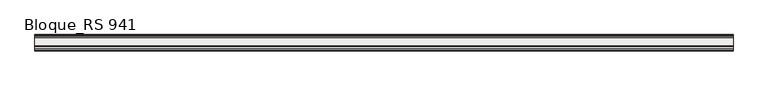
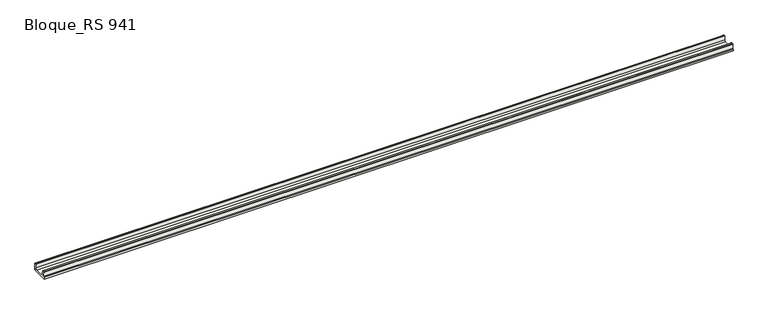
"""IFC4 building model written with IfcOpenShell, lengths in millimetres: slab geometry, ROSA GRES_RS 941 : Bloque_RS 941."""

from ifc_helpers import new_model, si_unit, point, frame, frame_2d, origin, place, context, project, spatial, polyline, circle_curve, trimmed, segment, composite_curve, outline, extrude, source, transform, mapped, element, save


def bloque_rs_941_059d9b8e(model_context):
    return source(origin(), model_context, "Body", "SweptSolid", [
        extrude(outline(composite_curve([segment(trimmed(circle_curve(frame_2d((290.8048832, 121.0098178)), 4.9901918), [point((290.7950654, 126.0))], [point((295.7950654, 121.0))], False, "CARTESIAN"), True, "CONTINUOUS"), segment(polyline([(295.7950654, 121.0), (295.7950654, 0.0), (15.7946269, 0.0), (15.7946269, 32.0012714), (22.7946272, 44.0), (22.7946272, 121.0)]), True, "CONTINUOUS"), segment(trimmed(circle_curve(frame_2d((27.7946272, 121.0)), 5.0), [point((22.7946272, 121.0))], [point((27.7946272, 126.0))], False, "CARTESIAN"), True, "CONTINUOUS"), segment(polyline([(27.7946272, 126.0), (54.1223252, 126.0)]), True, "CONTINUOUS"), segment(trimmed(circle_curve(frame_2d((54.1351224, 121.0174239)), 4.9825925), [point((54.1223252, 126.0))], [point((58.8933079, 122.4959025))], False, "CARTESIAN"), True, "CONTINUOUS"), segment(polyline([(58.8933079, 122.4959025), (83.9689438, 42.5204875)]), True, "CONTINUOUS"), segment(trimmed(circle_curve(frame_2d((107.6378199, 49.7467022)), 24.7474015), [point((83.9689438, 42.5204875))], [point((107.8238571, 25.0))], True, "CARTESIAN"), True, "CONTINUOUS"), segment(polyline([(107.8238571, 25.0), (246.7450654, 25.0)]), True, "CONTINUOUS"), segment(trimmed(circle_curve(frame_2d((246.8549987, 49.9398968)), 24.9401391), [point((246.7450654, 25.0))], [point((271.7950654, 50.0))], True, "CARTESIAN"), True, "CONTINUOUS"), segment(polyline([(271.7950654, 50.0), (271.7950654, 121.221769)]), True, "CONTINUOUS"), segment(trimmed(circle_curve(frame_2d((276.7873115, 121.0029619)), 4.9970389), [point((271.7950654, 121.221769))], [point((276.7901448, 126.0))], False, "CARTESIAN"), True, "CONTINUOUS"), segment(polyline([(276.7901448, 126.0), (290.7950654, 126.0)]), True, "CONTINUOUS")], self_intersect=False)), frame((0.0, 0.0, 0.0), z_axis=(1.0, 0.0, 0.0), x_axis=(0.0, 1.0, 0.0)), (0.0, 0.0, 1.0), 12040.0),
    ])


if __name__ == "__main__":
    model = new_model("IFC4")
    model_context = context("Model", 3, world=origin())
    ifc_project = project(units=[si_unit("LENGTHUNIT", "METRE", prefix="MILLI")], contexts=[model_context])
    site = spatial("IfcSite", under=ifc_project)
    building = spatial("IfcBuilding", under=site)
    placement = place(None, origin())
    bloque_rs_941_shape = bloque_rs_941_059d9b8e(model_context)
    element("IfcSlab", 1, ObjectType="ROSA GRES_RS 941 : Bloque_RS 941", at=placement, inside=building, context=model_context, shape_type="MappedRepresentation", body=[
        mapped(bloque_rs_941_shape, transform((0.0, 0.0, 0.0), x_axis=(1.0, 0.0, 0.0), y_axis=(0.0, 1.0, 0.0), z_axis=(0.0, 0.0, 1.0))),
    ])
    save(model, "model.ifc")
